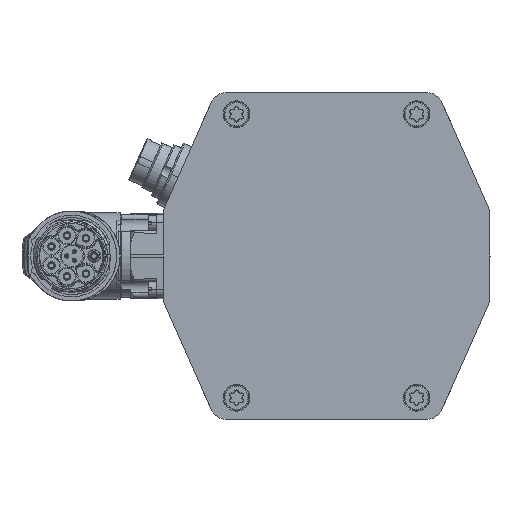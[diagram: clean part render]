
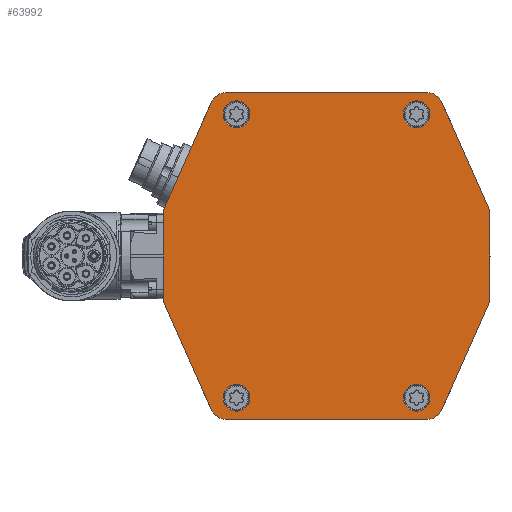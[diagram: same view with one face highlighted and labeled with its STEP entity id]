
A CAD part, left-side view. The second image highlights one B-rep face of the part: STEP entity #63992.
In plain terms, the highlighted planar face has unit normal (-1, 0, 0).
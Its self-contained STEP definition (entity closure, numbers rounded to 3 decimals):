
#6988=CARTESIAN_POINT('',(-245.,-30.,-44.));
#6989=DIRECTION('',(-1.,0.,0.));
#6990=DIRECTION('',(0.,0.,-1.));
#6991=AXIS2_PLACEMENT_3D('',#6988,#6989,#6990);
#6993=DIRECTION('',(0.,-1.,0.));
#6994=VECTOR('',#6993,60.);
#6995=CARTESIAN_POINT('',(-245.,30.,-49.));
#6996=LINE('',#6995,#6994);
#6997=CARTESIAN_POINT('',(-245.,30.,-44.));
#6998=DIRECTION('',(-1.,0.,0.));
#6999=DIRECTION('',(0.,0.914,-0.405));
#7000=AXIS2_PLACEMENT_3D('',#6997,#6998,#6999);
#7002=DIRECTION('',(0.,-0.405,-0.914));
#7003=VECTOR('',#7002,35.228);
#7004=CARTESIAN_POINT('',(-245.,48.829,-13.809));
#7005=LINE('',#7004,#7003);
#7006=CARTESIAN_POINT('',(-245.,47.,-13.));
#7007=DIRECTION('',(-1.,0.,0.));
#7008=DIRECTION('',(0.,1.,0.));
#7009=AXIS2_PLACEMENT_3D('',#7006,#7007,#7008);
#7011=DIRECTION('',(0.,0.,-1.));
#7012=VECTOR('',#7011,26.);
#7013=CARTESIAN_POINT('',(-245.,49.,13.));
#7014=LINE('',#7013,#7012);
#7015=CARTESIAN_POINT('',(-245.,47.,13.));
#7016=DIRECTION('',(-1.,0.,0.));
#7017=DIRECTION('',(0.,0.914,0.405));
#7018=AXIS2_PLACEMENT_3D('',#7015,#7016,#7017);
#7020=DIRECTION('',(0.,0.405,-0.914));
#7021=VECTOR('',#7020,35.228);
#7022=CARTESIAN_POINT('',(-245.,34.572,46.023));
#7023=LINE('',#7022,#7021);
#7024=CARTESIAN_POINT('',(-245.,30.,44.));
#7025=DIRECTION('',(-1.,0.,0.));
#7026=DIRECTION('',(0.,0.,1.));
#7027=AXIS2_PLACEMENT_3D('',#7024,#7025,#7026);
#7029=DIRECTION('',(0.,1.,0.));
#7030=VECTOR('',#7029,60.);
#7031=CARTESIAN_POINT('',(-245.,-30.,49.));
#7032=LINE('',#7031,#7030);
#7033=CARTESIAN_POINT('',(-245.,-30.,44.));
#7034=DIRECTION('',(-1.,0.,0.));
#7035=DIRECTION('',(0.,-0.914,0.405));
#7036=AXIS2_PLACEMENT_3D('',#7033,#7034,#7035);
#7038=DIRECTION('',(0.,0.405,0.914));
#7039=VECTOR('',#7038,35.228);
#7040=CARTESIAN_POINT('',(-245.,-48.829,13.809));
#7041=LINE('',#7040,#7039);
#7042=CARTESIAN_POINT('',(-245.,-47.,13.));
#7043=DIRECTION('',(-1.,0.,0.));
#7044=DIRECTION('',(0.,-1.,0.));
#7045=AXIS2_PLACEMENT_3D('',#7042,#7043,#7044);
#7047=DIRECTION('',(0.,0.,1.));
#7048=VECTOR('',#7047,26.);
#7049=CARTESIAN_POINT('',(-245.,-49.,-13.));
#7050=LINE('',#7049,#7048);
#7051=CARTESIAN_POINT('',(-245.,-47.,-13.));
#7052=DIRECTION('',(-1.,0.,0.));
#7053=DIRECTION('',(0.,-0.914,-0.405));
#7054=AXIS2_PLACEMENT_3D('',#7051,#7052,#7053);
#7056=DIRECTION('',(0.,-0.405,0.914));
#7057=VECTOR('',#7056,35.228);
#7058=CARTESIAN_POINT('',(-245.,-34.572,-46.023));
#7059=LINE('',#7058,#7057);
#7060=CARTESIAN_POINT('',(-245.,27.,-42.5));
#7061=DIRECTION('',(-1.,0.,0.));
#7062=DIRECTION('',(0.,0.,-1.));
#7063=AXIS2_PLACEMENT_3D('',#7060,#7061,#7062);
#7065=CARTESIAN_POINT('',(-245.,27.,-42.5));
#7066=DIRECTION('',(-1.,0.,0.));
#7067=DIRECTION('',(0.,0.,1.));
#7068=AXIS2_PLACEMENT_3D('',#7065,#7066,#7067);
#7070=CARTESIAN_POINT('',(-245.,27.,42.5));
#7071=DIRECTION('',(1.,0.,0.));
#7072=DIRECTION('',(0.,0.,1.));
#7073=AXIS2_PLACEMENT_3D('',#7070,#7071,#7072);
#7075=CARTESIAN_POINT('',(-245.,27.,42.5));
#7076=DIRECTION('',(1.,0.,0.));
#7077=DIRECTION('',(0.,0.,-1.));
#7078=AXIS2_PLACEMENT_3D('',#7075,#7076,#7077);
#7080=CARTESIAN_POINT('',(-245.,-27.,-42.5));
#7081=DIRECTION('',(1.,0.,0.));
#7082=DIRECTION('',(0.,0.,-1.));
#7083=AXIS2_PLACEMENT_3D('',#7080,#7081,#7082);
#7085=CARTESIAN_POINT('',(-245.,-27.,-42.5));
#7086=DIRECTION('',(1.,0.,0.));
#7087=DIRECTION('',(0.,0.,1.));
#7088=AXIS2_PLACEMENT_3D('',#7085,#7086,#7087);
#7090=CARTESIAN_POINT('',(-245.,-27.,42.5));
#7091=DIRECTION('',(-1.,0.,0.));
#7092=DIRECTION('',(0.,0.,1.));
#7093=AXIS2_PLACEMENT_3D('',#7090,#7091,#7092);
#7095=CARTESIAN_POINT('',(-245.,-27.,42.5));
#7096=DIRECTION('',(-1.,0.,0.));
#7097=DIRECTION('',(0.,0.,-1.));
#7098=AXIS2_PLACEMENT_3D('',#7095,#7096,#7097);
#54522=CARTESIAN_POINT('',(-245.,-30.,-49.));
#54523=CARTESIAN_POINT('',(-245.,-34.572,-46.023));
#54524=VERTEX_POINT('',#54522);
#54525=VERTEX_POINT('',#54523);
#54526=CARTESIAN_POINT('',(-245.,-48.829,-13.809));
#54527=VERTEX_POINT('',#54526);
#54528=CARTESIAN_POINT('',(-245.,-49.,-13.));
#54529=VERTEX_POINT('',#54528);
#54530=CARTESIAN_POINT('',(-245.,-49.,13.));
#54531=VERTEX_POINT('',#54530);
#54532=CARTESIAN_POINT('',(-245.,-48.829,13.809));
#54533=VERTEX_POINT('',#54532);
#54534=CARTESIAN_POINT('',(-245.,-34.572,46.023));
#54535=VERTEX_POINT('',#54534);
#54536=CARTESIAN_POINT('',(-245.,-30.,49.));
#54537=VERTEX_POINT('',#54536);
#54538=CARTESIAN_POINT('',(-245.,30.,49.));
#54539=VERTEX_POINT('',#54538);
#54540=CARTESIAN_POINT('',(-245.,34.572,46.023));
#54541=VERTEX_POINT('',#54540);
#54542=CARTESIAN_POINT('',(-245.,48.829,13.809));
#54543=VERTEX_POINT('',#54542);
#54544=CARTESIAN_POINT('',(-245.,49.,13.));
#54545=VERTEX_POINT('',#54544);
#54546=CARTESIAN_POINT('',(-245.,49.,-13.));
#54547=VERTEX_POINT('',#54546);
#54548=CARTESIAN_POINT('',(-245.,48.829,-13.809));
#54549=VERTEX_POINT('',#54548);
#54550=CARTESIAN_POINT('',(-245.,34.572,-46.023));
#54551=VERTEX_POINT('',#54550);
#54552=CARTESIAN_POINT('',(-245.,30.,-49.));
#54553=VERTEX_POINT('',#54552);
#54566=CARTESIAN_POINT('',(-245.,27.,-46.5));
#54567=CARTESIAN_POINT('',(-245.,27.,-38.5));
#54568=VERTEX_POINT('',#54566);
#54569=VERTEX_POINT('',#54567);
#54574=CARTESIAN_POINT('',(-245.,27.,46.5));
#54575=VERTEX_POINT('',#54574);
#54576=CARTESIAN_POINT('',(-245.,27.,38.5));
#54577=VERTEX_POINT('',#54576);
#54582=CARTESIAN_POINT('',(-245.,-27.,-46.5));
#54583=VERTEX_POINT('',#54582);
#54584=CARTESIAN_POINT('',(-245.,-27.,-38.5));
#54585=VERTEX_POINT('',#54584);
#54590=CARTESIAN_POINT('',(-245.,-27.,46.5));
#54591=VERTEX_POINT('',#54590);
#54592=CARTESIAN_POINT('',(-245.,-27.,38.5));
#54593=VERTEX_POINT('',#54592);
#63945=CARTESIAN_POINT('',(-245.,0.,0.));
#63946=DIRECTION('',(-1.,0.,0.));
#63947=DIRECTION('',(0.,1.,0.));
#63948=AXIS2_PLACEMENT_3D('',#63945,#63946,#63947);
#63949=PLANE('',#63948);
#63950=ORIENTED_EDGE('',*,*,#63729,.F.);
#63951=ORIENTED_EDGE('',*,*,#63744,.F.);
#63952=ORIENTED_EDGE('',*,*,#63758,.F.);
#63953=ORIENTED_EDGE('',*,*,#63772,.F.);
#63954=ORIENTED_EDGE('',*,*,#63786,.F.);
#63955=ORIENTED_EDGE('',*,*,#63800,.F.);
#63956=ORIENTED_EDGE('',*,*,#63814,.F.);
#63957=ORIENTED_EDGE('',*,*,#63828,.F.);
#63958=ORIENTED_EDGE('',*,*,#63842,.F.);
#63959=ORIENTED_EDGE('',*,*,#63856,.F.);
#63960=ORIENTED_EDGE('',*,*,#63870,.F.);
#63961=ORIENTED_EDGE('',*,*,#63884,.F.);
#63962=ORIENTED_EDGE('',*,*,#63898,.F.);
#63963=ORIENTED_EDGE('',*,*,#63912,.F.);
#63964=ORIENTED_EDGE('',*,*,#63926,.F.);
#63965=ORIENTED_EDGE('',*,*,#63939,.F.);
#63966=EDGE_LOOP('',(#63950,#63951,#63952,#63953,#63954,#63955,#63956,#63957,
#63958,#63959,#63960,#63961,#63962,#63963,#63964,#63965));
#63967=FACE_OUTER_BOUND('',#63966,.F.);
#63969=ORIENTED_EDGE('',*,*,#63968,.T.);
#63971=ORIENTED_EDGE('',*,*,#63970,.T.);
#63972=EDGE_LOOP('',(#63969,#63971));
#63973=FACE_BOUND('',#63972,.F.);
#63975=ORIENTED_EDGE('',*,*,#63974,.F.);
#63977=ORIENTED_EDGE('',*,*,#63976,.F.);
#63978=EDGE_LOOP('',(#63975,#63977));
#63979=FACE_BOUND('',#63978,.F.);
#63981=ORIENTED_EDGE('',*,*,#63980,.F.);
#63983=ORIENTED_EDGE('',*,*,#63982,.F.);
#63984=EDGE_LOOP('',(#63981,#63983));
#63985=FACE_BOUND('',#63984,.F.);
#63987=ORIENTED_EDGE('',*,*,#63986,.T.);
#63989=ORIENTED_EDGE('',*,*,#63988,.T.);
#63990=EDGE_LOOP('',(#63987,#63989));
#63991=FACE_BOUND('',#63990,.F.);
#63992=ADVANCED_FACE('',(#63967,#63973,#63979,#63985,#63991),#63949,.T.);
#6992=CIRCLE('',#6991,5.);
#7001=CIRCLE('',#7000,5.);
#7010=CIRCLE('',#7009,2.);
#7019=CIRCLE('',#7018,2.);
#7028=CIRCLE('',#7027,5.);
#7037=CIRCLE('',#7036,5.);
#7046=CIRCLE('',#7045,2.);
#7055=CIRCLE('',#7054,2.);
#7064=CIRCLE('',#7063,4.);
#7069=CIRCLE('',#7068,4.);
#7074=CIRCLE('',#7073,4.);
#7079=CIRCLE('',#7078,4.);
#7084=CIRCLE('',#7083,4.);
#7089=CIRCLE('',#7088,4.);
#7094=CIRCLE('',#7093,4.);
#7099=CIRCLE('',#7098,4.);
#63729=EDGE_CURVE('',#54524,#54525,#6992,.T.);
#63744=EDGE_CURVE('',#54553,#54524,#6996,.T.);
#63758=EDGE_CURVE('',#54551,#54553,#7001,.T.);
#63772=EDGE_CURVE('',#54549,#54551,#7005,.T.);
#63786=EDGE_CURVE('',#54547,#54549,#7010,.T.);
#63800=EDGE_CURVE('',#54545,#54547,#7014,.T.);
#63814=EDGE_CURVE('',#54543,#54545,#7019,.T.);
#63828=EDGE_CURVE('',#54541,#54543,#7023,.T.);
#63842=EDGE_CURVE('',#54539,#54541,#7028,.T.);
#63856=EDGE_CURVE('',#54537,#54539,#7032,.T.);
#63870=EDGE_CURVE('',#54535,#54537,#7037,.T.);
#63884=EDGE_CURVE('',#54533,#54535,#7041,.T.);
#63898=EDGE_CURVE('',#54531,#54533,#7046,.T.);
#63912=EDGE_CURVE('',#54529,#54531,#7050,.T.);
#63926=EDGE_CURVE('',#54527,#54529,#7055,.T.);
#63939=EDGE_CURVE('',#54525,#54527,#7059,.T.);
#63968=EDGE_CURVE('',#54568,#54569,#7064,.T.);
#63970=EDGE_CURVE('',#54569,#54568,#7069,.T.);
#63974=EDGE_CURVE('',#54575,#54577,#7074,.T.);
#63976=EDGE_CURVE('',#54577,#54575,#7079,.T.);
#63980=EDGE_CURVE('',#54583,#54585,#7084,.T.);
#63982=EDGE_CURVE('',#54585,#54583,#7089,.T.);
#63986=EDGE_CURVE('',#54591,#54593,#7094,.T.);
#63988=EDGE_CURVE('',#54593,#54591,#7099,.T.);
